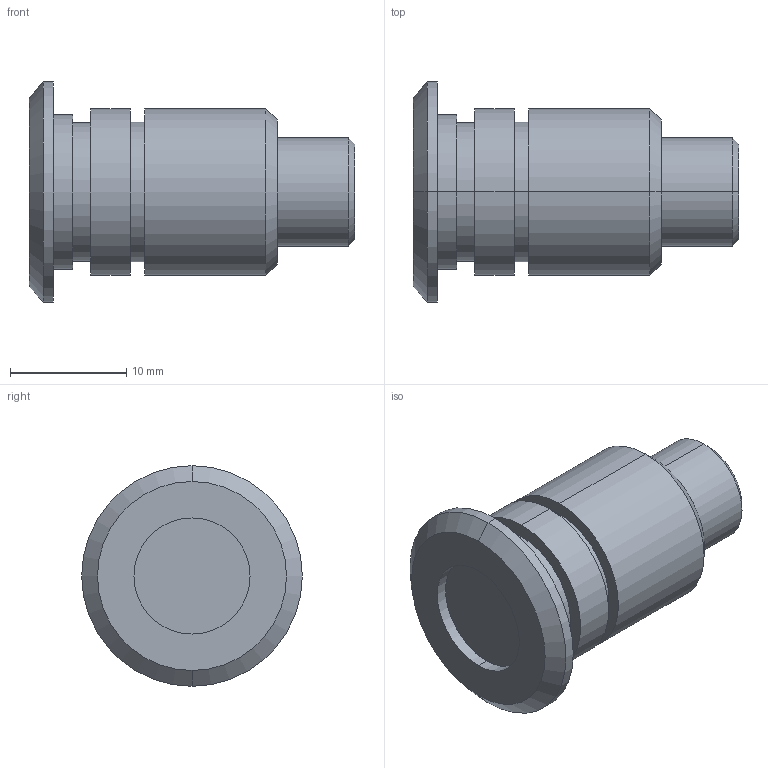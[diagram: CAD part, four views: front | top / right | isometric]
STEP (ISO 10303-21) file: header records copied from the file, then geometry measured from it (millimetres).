
FILE_DESCRIPTION (( 'STEP AP203' ), '1' );
FILE_NAME ('LUX INDOOR.STEP', '2026-10-07T08:33:02', ( '' ), ( '' ), 'SwSTEP 2.0', 'SolidWorks 2016', '' );
FILE_SCHEMA (( 'CONFIG_CONTROL_DESIGN' ));
Length unit declared in the file: millimetre
Products named in the file (1): LUX INDOOR
Bounding box: 28 x 19 x 19 mm (x, y, z)
Volume: 3822.9 mm3; surface area: 1872.3 mm2
Topology: 1 solids, 1 shells, 32 faces, 62 edges, 38 vertices
Faces by surface type: cylinder 16, cone 8, plane 8
Entity records: 901 total; most frequent: DIRECTION 166, CARTESIAN_POINT 133, ORIENTED_EDGE 124, AXIS2_PLACEMENT_3D 71, EDGE_CURVE 62, CIRCLE 38, EDGE_LOOP 38, VERTEX_POINT 38
